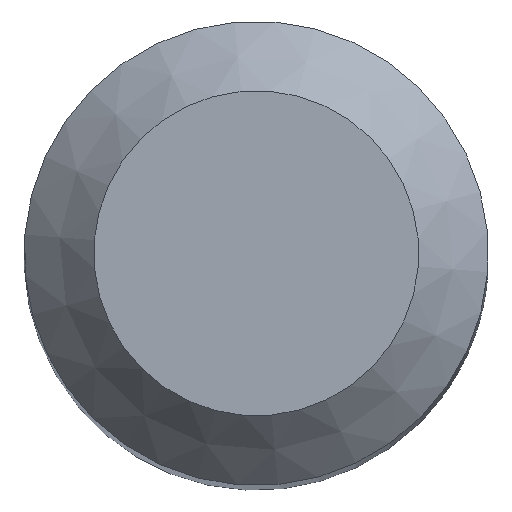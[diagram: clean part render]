
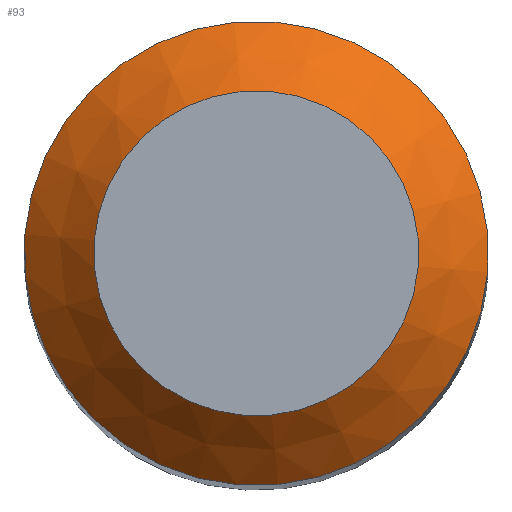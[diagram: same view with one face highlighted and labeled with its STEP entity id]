
A CAD part, top view. The second image highlights one B-rep face of the part: STEP entity #93.
In plain terms, the highlighted conical face has half-angle 45 degrees and reference radius 3 mm.
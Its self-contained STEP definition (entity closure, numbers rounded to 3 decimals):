
#67=FACE_BOUND('',#144,.T.);
#68=FACE_BOUND('',#145,.T.);
#75=CONICAL_SURFACE('',#458,3.,45.);
#93=ADVANCED_FACE('',(#67,#68),#75,.T.);
#144=EDGE_LOOP('',(#246));
#145=EDGE_LOOP('',(#247));
#161=CIRCLE('',#455,3.);
#162=CIRCLE('',#457,2.1);
#246=ORIENTED_EDGE('',*,*,#351,.F.);
#247=ORIENTED_EDGE('',*,*,#348,.T.);
#299=VERTEX_POINT('',#14344);
#300=VERTEX_POINT('',#14403);
#348=EDGE_CURVE('',#299,#299,#161,.T.);
#351=EDGE_CURVE('',#300,#300,#162,.T.);
#455=AXIS2_PLACEMENT_3D('',#14343,#518,#519);
#457=AXIS2_PLACEMENT_3D('',#14402,#522,#523);
#458=AXIS2_PLACEMENT_3D('',#14404,#524,#525);
#518=DIRECTION('',(0.,0.,1.));
#519=DIRECTION('',(0.997,-0.081,0.));
#522=DIRECTION('',(0.,0.,1.));
#523=DIRECTION('',(0.997,-0.081,0.));
#524=DIRECTION('',(0.,0.,-1.));
#525=DIRECTION('',(-0.997,0.081,0.));
#14343=CARTESIAN_POINT('',(0.,0.,-0.9));
#14344=CARTESIAN_POINT('',(2.99,-0.242,-0.9));
#14402=CARTESIAN_POINT('',(0.,0.,0.));
#14403=CARTESIAN_POINT('',(2.093,-0.169,0.));
#14404=CARTESIAN_POINT('',(0.,0.,-0.9));
